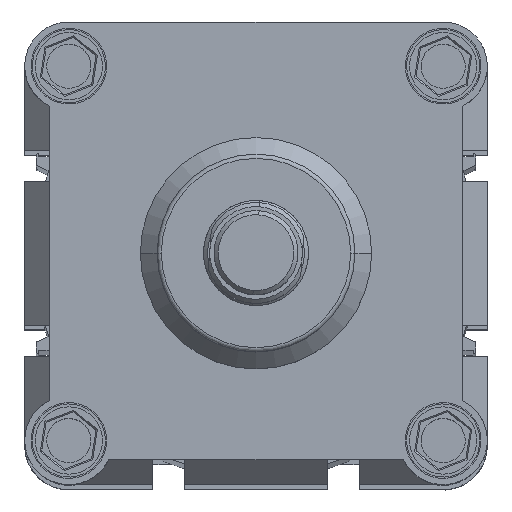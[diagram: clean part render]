
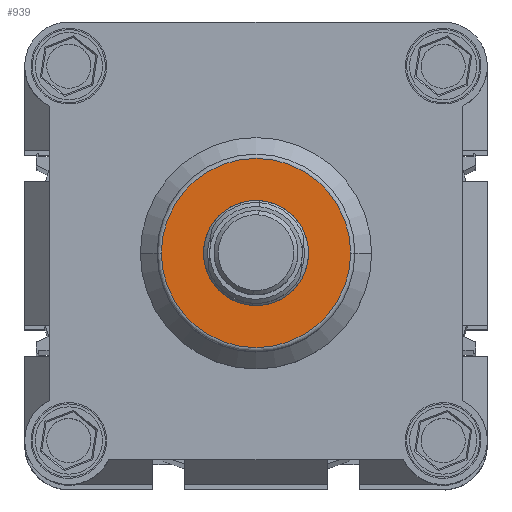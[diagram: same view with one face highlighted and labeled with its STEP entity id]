
A CAD part, top view. The second image highlights one B-rep face of the part: STEP entity #939.
In plain terms, the highlighted planar face has unit normal (0, 0, 1).
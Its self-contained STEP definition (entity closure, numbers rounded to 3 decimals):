
#215 = FACE_BOUND ( 'NONE', #6777, .T. ) ;
#363 = DIRECTION ( 'NONE',  ( 0., 0., 1. ) ) ;
#939 = ADVANCED_FACE ( 'NONE', ( #215, #20374 ), #4886, .T. ) ;
#1464 = DIRECTION ( 'NONE',  ( 1., 0., 0. ) ) ;
#1647 = VERTEX_POINT ( 'NONE', #16927 ) ;
#1857 = EDGE_CURVE ( 'NONE', #1647, #22820, #2805, .T. ) ;
#2701 = EDGE_CURVE ( 'NONE', #21584, #4794, #8098, .T. ) ;
#2805 = CIRCLE ( 'NONE', #14308, 22.5 ) ;
#2975 = DIRECTION ( 'NONE',  ( 0., 0., 1. ) ) ;
#4127 = DIRECTION ( 'NONE',  ( 0., 0., 1. ) ) ;
#4583 = EDGE_LOOP ( 'NONE', ( #13572, #16088 ) ) ;
#4764 = CARTESIAN_POINT ( 'NONE',  ( 55., 55., 80. ) ) ;
#4794 = VERTEX_POINT ( 'NONE', #10536 ) ;
#4886 = PLANE ( 'NONE',  #6305 ) ;
#5945 = CARTESIAN_POINT ( 'NONE',  ( 42.5, 55., 80. ) ) ;
#6152 = EDGE_CURVE ( 'NONE', #4794, #21584, #21746, .T. ) ;
#6161 = CARTESIAN_POINT ( 'NONE',  ( 77.5, 55., 80. ) ) ;
#6305 = AXIS2_PLACEMENT_3D ( 'NONE', #22890, #17720, #1464 ) ;
#6777 = EDGE_LOOP ( 'NONE', ( #22528, #11112 ) ) ;
#8098 = CIRCLE ( 'NONE', #10093, 12.5 ) ;
#9623 = EDGE_CURVE ( 'NONE', #22820, #1647, #22989, .T. ) ;
#10093 = AXIS2_PLACEMENT_3D ( 'NONE', #4764, #2975, #11916 ) ;
#10346 = DIRECTION ( 'NONE',  ( 0., 0., 1. ) ) ;
#10536 = CARTESIAN_POINT ( 'NONE',  ( 67.5, 55., 80. ) ) ;
#10941 = AXIS2_PLACEMENT_3D ( 'NONE', #13095, #4127, #16663 ) ;
#11112 = ORIENTED_EDGE ( 'NONE', *, *, #2701, .F. ) ;
#11916 = DIRECTION ( 'NONE',  ( 1., 0., 0. ) ) ;
#13095 = CARTESIAN_POINT ( 'NONE',  ( 55., 55., 80. ) ) ;
#13572 = ORIENTED_EDGE ( 'NONE', *, *, #9623, .T. ) ;
#14308 = AXIS2_PLACEMENT_3D ( 'NONE', #19164, #10346, #21005 ) ;
#16088 = ORIENTED_EDGE ( 'NONE', *, *, #1857, .T. ) ;
#16620 = DIRECTION ( 'NONE',  ( 1., 0., 0. ) ) ;
#16663 = DIRECTION ( 'NONE',  ( 1., 0., 0. ) ) ;
#16927 = CARTESIAN_POINT ( 'NONE',  ( 32.5, 55., 80. ) ) ;
#17720 = DIRECTION ( 'NONE',  ( 0., 0., 1. ) ) ;
#18390 = CARTESIAN_POINT ( 'NONE',  ( 55., 55., 80. ) ) ;
#19164 = CARTESIAN_POINT ( 'NONE',  ( 55., 55., 80. ) ) ;
#20374 = FACE_OUTER_BOUND ( 'NONE', #4583, .T. ) ;
#20416 = AXIS2_PLACEMENT_3D ( 'NONE', #18390, #363, #16620 ) ;
#21005 = DIRECTION ( 'NONE',  ( 1., 0., 0. ) ) ;
#21584 = VERTEX_POINT ( 'NONE', #5945 ) ;
#21746 = CIRCLE ( 'NONE', #10941, 12.5 ) ;
#22528 = ORIENTED_EDGE ( 'NONE', *, *, #6152, .F. ) ;
#22820 = VERTEX_POINT ( 'NONE', #6161 ) ;
#22890 = CARTESIAN_POINT ( 'NONE',  ( 55., 55., 80. ) ) ;
#22989 = CIRCLE ( 'NONE', #20416, 22.5 ) ;
